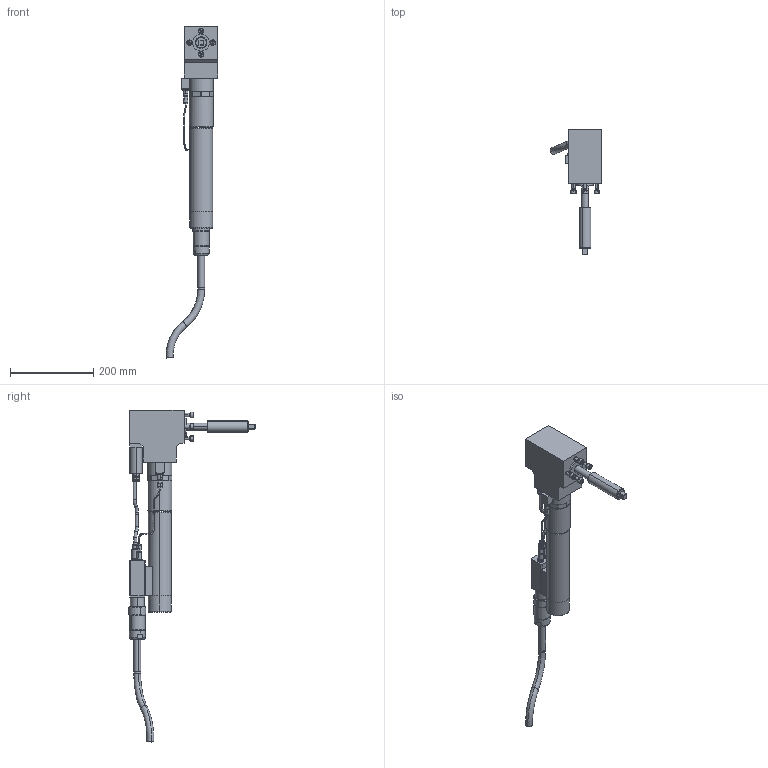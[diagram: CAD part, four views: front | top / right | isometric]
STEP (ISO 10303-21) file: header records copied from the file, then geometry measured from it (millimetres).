
FILE_DESCRIPTION(('CATIA V5 STEP Exchange'),'2;1');
FILE_NAME('C:\pro\7920321_ECR205_W2_AWD250-63_AllCATPart.stp','2008-11-10T09:31:10+00:00',('none'),('none'),'CATIA Version 5 Release 17 (IN-10)','CATIA V5 STEP AP203','none');
FILE_SCHEMA(('CONFIG_CONTROL_DESIGN'));
Length unit declared in the file: millimetre
Products named in the file (1): 7920321_ECR205_W2_AWD250-63_AllCATPart
Bounding box: 123.82 x 302.48 x 796.56 mm (x, y, z)
Volume: 2546394.3 mm3; surface area: 246735.6 mm2
Topology: 18 solids, 18 shells, 535 faces, 1221 edges, 758 vertices
Faces by surface type: plane 239, cylinder 180, cone 64, torus 48, bspline 4
Entity records: 14376 total; most frequent: CARTESIAN_POINT 3136, ORIENTED_EDGE 2418, DIRECTION 1937, EDGE_CURVE 1209, AXIS2_PLACEMENT_3D 949, VERTEX_POINT 758, VECTOR 599, LINE 599
